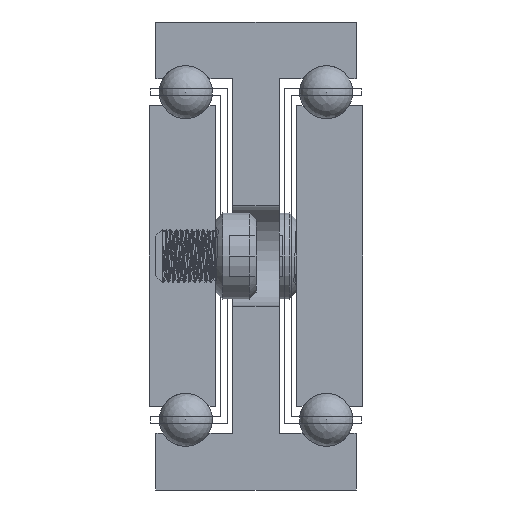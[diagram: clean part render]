
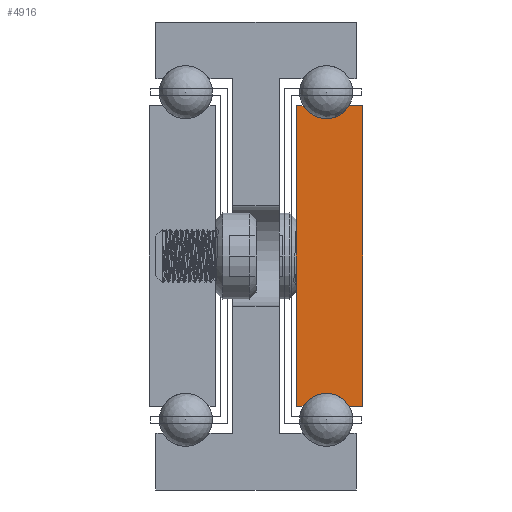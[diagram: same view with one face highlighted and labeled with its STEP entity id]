
A CAD part, front view. The second image highlights one B-rep face of the part: STEP entity #4916.
In plain terms, the highlighted planar face has unit normal (0, -1, 0).
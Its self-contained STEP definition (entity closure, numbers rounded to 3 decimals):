
#748=PLANE('',#5320);
#850=FACE_OUTER_BOUND('',#1132,.T.);
#1132=EDGE_LOOP('',(#4024,#4025,#4026,#4027,#4028,#4029,#4030,#4031));
#1672=LINE('',#7664,#1884);
#1676=LINE('',#7672,#1888);
#1680=LINE('',#7684,#1892);
#1683=LINE('',#7690,#1895);
#1686=LINE('',#7696,#1898);
#1690=LINE('',#7707,#1902);
#1884=VECTOR('',#6124,1.);
#1888=VECTOR('',#6130,1.);
#1892=VECTOR('',#6142,1.);
#1895=VECTOR('',#6147,1.);
#1898=VECTOR('',#6152,1.);
#1902=VECTOR('',#6164,1.);
#2060=CIRCLE('',#5311,4.);
#2062=CIRCLE('',#5317,4.);
#2524=VERTEX_POINT('',#7662);
#2525=VERTEX_POINT('',#7663);
#2528=VERTEX_POINT('',#7671);
#2530=VERTEX_POINT('',#7677);
#2532=VERTEX_POINT('',#7683);
#2534=VERTEX_POINT('',#7689);
#2536=VERTEX_POINT('',#7695);
#2538=VERTEX_POINT('',#7701);
#3230=EDGE_CURVE('',#2524,#2525,#1672,.T.);
#3234=EDGE_CURVE('',#2525,#2528,#1676,.T.);
#3237=EDGE_CURVE('',#2528,#2530,#2060,.T.);
#3240=EDGE_CURVE('',#2530,#2532,#1680,.T.);
#3243=EDGE_CURVE('',#2532,#2534,#1683,.T.);
#3246=EDGE_CURVE('',#2534,#2536,#1686,.T.);
#3249=EDGE_CURVE('',#2536,#2538,#2062,.T.);
#3252=EDGE_CURVE('',#2538,#2524,#1690,.T.);
#4024=ORIENTED_EDGE('',*,*,#3252,.T.);
#4025=ORIENTED_EDGE('',*,*,#3230,.T.);
#4026=ORIENTED_EDGE('',*,*,#3234,.T.);
#4027=ORIENTED_EDGE('',*,*,#3237,.T.);
#4028=ORIENTED_EDGE('',*,*,#3240,.T.);
#4029=ORIENTED_EDGE('',*,*,#3243,.T.);
#4030=ORIENTED_EDGE('',*,*,#3246,.T.);
#4031=ORIENTED_EDGE('',*,*,#3249,.T.);
#4916=ADVANCED_FACE('',(#850),#748,.F.);
#5311=AXIS2_PLACEMENT_3D('',#7678,#6135,#6136);
#5317=AXIS2_PLACEMENT_3D('',#7702,#6157,#6158);
#5320=AXIS2_PLACEMENT_3D('',#7709,#6166,#6167);
#6124=DIRECTION('',(0.,0.,1.));
#6130=DIRECTION('',(-1.,0.,0.));
#6135=DIRECTION('center_axis',(0.,1.,0.));
#6136=DIRECTION('ref_axis',(0.866,0.,-0.5));
#6142=DIRECTION('',(-1.,0.,0.));
#6147=DIRECTION('',(0.,0.,-1.));
#6152=DIRECTION('',(1.,0.,0.));
#6157=DIRECTION('center_axis',(0.,1.,0.));
#6158=DIRECTION('ref_axis',(-0.866,0.,0.5));
#6164=DIRECTION('',(1.,0.,0.));
#6166=DIRECTION('center_axis',(0.,1.,0.));
#6167=DIRECTION('ref_axis',(-1.,0.,0.));
#7662=CARTESIAN_POINT('',(-3.095,204.108,977.5));
#7663=CARTESIAN_POINT('',(-3.095,204.108,1022.5));
#7664=CARTESIAN_POINT('',(-3.095,204.108,977.5));
#7671=CARTESIAN_POINT('',(-5.131,204.108,1022.5));
#7672=CARTESIAN_POINT('',(-3.095,204.108,1022.5));
#7677=CARTESIAN_POINT('',(-12.059,204.108,1022.5));
#7678=CARTESIAN_POINT('Origin',(-8.595,204.108,1024.5));
#7683=CARTESIAN_POINT('',(-13.095,204.108,1022.5));
#7684=CARTESIAN_POINT('',(-12.059,204.108,1022.5));
#7689=CARTESIAN_POINT('',(-13.095,204.108,977.5));
#7690=CARTESIAN_POINT('',(-13.095,204.108,1022.5));
#7695=CARTESIAN_POINT('',(-12.059,204.108,977.5));
#7696=CARTESIAN_POINT('',(-13.095,204.108,977.5));
#7701=CARTESIAN_POINT('',(-5.131,204.108,977.5));
#7702=CARTESIAN_POINT('Origin',(-8.595,204.108,975.5));
#7707=CARTESIAN_POINT('',(-5.131,204.108,977.5));
#7709=CARTESIAN_POINT('Origin',(-8.089,204.108,1000.));
